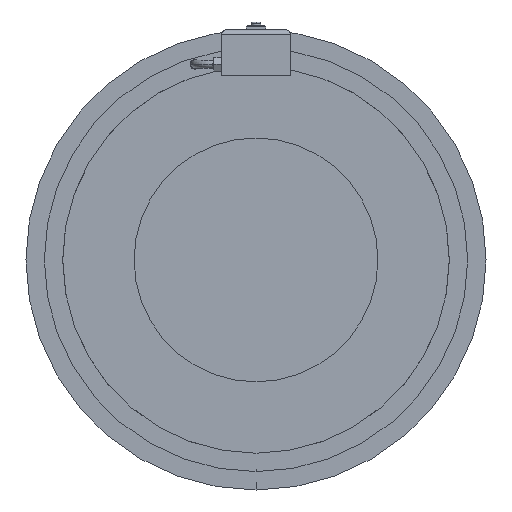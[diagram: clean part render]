
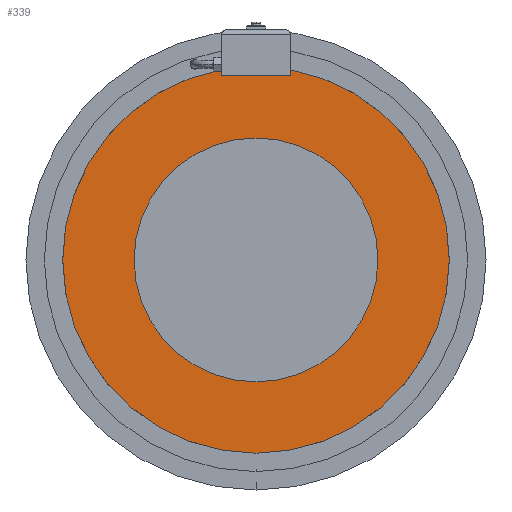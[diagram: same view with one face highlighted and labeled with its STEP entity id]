
A CAD part, front view. The second image highlights one B-rep face of the part: STEP entity #339.
In plain terms, the highlighted planar face has unit normal (0, -1, 0).
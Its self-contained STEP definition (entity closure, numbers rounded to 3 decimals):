
#339=ADVANCED_FACE('',(#712,#713),#714,.T.);
#712=FACE_OUTER_BOUND('',#1090,.T.);
#713=FACE_BOUND('',#1091,.T.);
#714=PLANE('',#1092);
#1090=EDGE_LOOP('',(#2064,#2065,#2066,#2067,#2068));
#1091=EDGE_LOOP('',(#2069,#2070));
#1092=AXIS2_PLACEMENT_3D('',#2071,#2072,#2073);
#2064=ORIENTED_EDGE('',*,*,#2361,.T.);
#2065=ORIENTED_EDGE('',*,*,#2261,.T.);
#2066=ORIENTED_EDGE('',*,*,#2581,.T.);
#2067=ORIENTED_EDGE('',*,*,#2487,.T.);
#2068=ORIENTED_EDGE('',*,*,#2373,.T.);
#2069=ORIENTED_EDGE('',*,*,#2582,.F.);
#2070=ORIENTED_EDGE('',*,*,#2256,.F.);
#2071=CARTESIAN_POINT('',(0.,-179.0,0.));
#2072=DIRECTION('',(0.,-1.0,0.));
#2073=DIRECTION('',(0.,0.0,1.0));
#2256=EDGE_CURVE('',#2742,#2744,#2745,.T.);
#2261=EDGE_CURVE('',#2753,#2750,#2754,.T.);
#2361=EDGE_CURVE('',#2924,#2753,#2925,.T.);
#2373=EDGE_CURVE('',#2946,#2924,#2947,.T.);
#2487=EDGE_CURVE('',#3101,#2946,#3102,.T.);
#2581=EDGE_CURVE('',#2750,#3101,#3227,.T.);
#2582=EDGE_CURVE('',#2744,#2742,#3228,.T.);
#2742=VERTEX_POINT('',#4346);
#2744=VERTEX_POINT('',#4349);
#2745=CIRCLE('',#4350,124.5);
#2750=VERTEX_POINT('',#4356);
#2753=VERTEX_POINT('',#4360);
#2754=CIRCLE('',#4361,197.4);
#2924=VERTEX_POINT('',#4636);
#2925=LINE('',#4637,#4638);
#2946=VERTEX_POINT('',#4669);
#2947=LINE('',#4670,#4671);
#3101=VERTEX_POINT('',#5252);
#3102=LINE('',#5253,#5254);
#3227=CIRCLE('',#5806,197.4);
#3228=CIRCLE('',#5807,124.5);
#4346=CARTESIAN_POINT('',(0.,-179.0,124.5));
#4349=CARTESIAN_POINT('',(0.,-179.0,-124.5));
#4350=AXIS2_PLACEMENT_3D('',#5943,#5944,#5945);
#4356=CARTESIAN_POINT('',(0.,-179.0,-197.4));
#4360=CARTESIAN_POINT('',(-35.25,-179.0,194.227));
#4361=AXIS2_PLACEMENT_3D('',#5951,#5952,#5953);
#4636=CARTESIAN_POINT('',(-35.25,-179.0,188.0));
#4637=CARTESIAN_POINT('',(-35.25,-179.0,105.75));
#4638=VECTOR('',#6112,1.0);
#4669=CARTESIAN_POINT('',(35.25,-179.0,188.0));
#4670=CARTESIAN_POINT('',(0.,-179.0,188.0));
#4671=VECTOR('',#6123,1.0);
#5252=CARTESIAN_POINT('',(35.25,-179.0,194.227));
#5253=CARTESIAN_POINT('',(35.25,-179.0,105.75));
#5254=VECTOR('',#6227,1.0);
#5806=AXIS2_PLACEMENT_3D('',#6361,#6362,#6363);
#5807=AXIS2_PLACEMENT_3D('',#6364,#6365,#6366);
#5943=CARTESIAN_POINT('',(0.,-179.0,0.));
#5944=DIRECTION('',(0.,-1.0,0.));
#5945=DIRECTION('',(0.,0.0,1.0));
#5951=CARTESIAN_POINT('',(0.,-179.0,0.));
#5952=DIRECTION('',(0.,-1.0,0.));
#5953=DIRECTION('',(0.,0.,1.0));
#6112=DIRECTION('',(0.,0.0,1.0));
#6123=DIRECTION('',(-1.0,0.,0.));
#6227=DIRECTION('',(0.,0.0,-1.0));
#6361=CARTESIAN_POINT('',(0.,-179.0,0.));
#6362=DIRECTION('',(0.,-1.0,0.));
#6363=DIRECTION('',(0.,0.,1.0));
#6364=CARTESIAN_POINT('',(0.,-179.0,0.));
#6365=DIRECTION('',(0.,-1.0,0.));
#6366=DIRECTION('',(0.,0.0,1.0));
